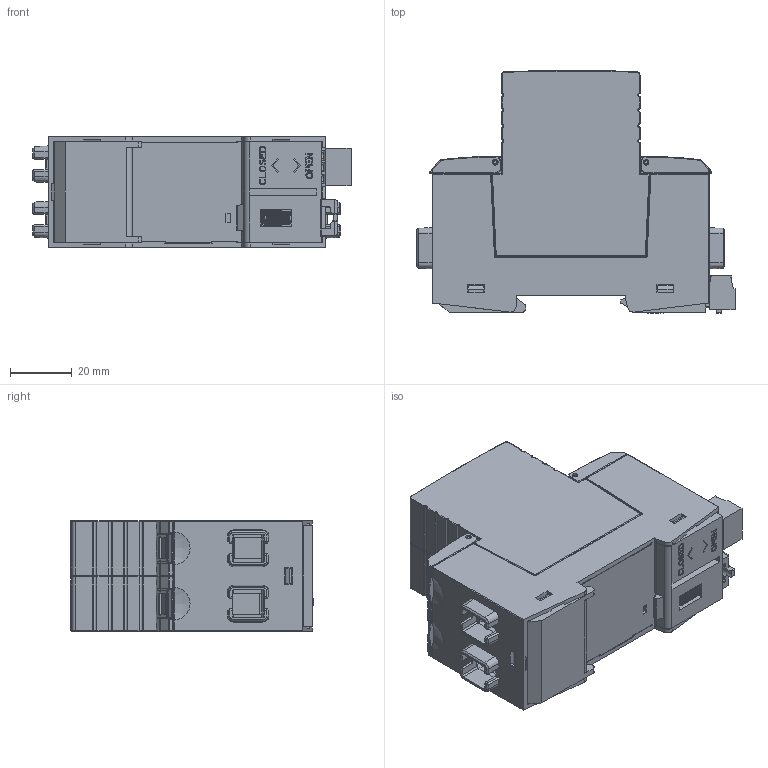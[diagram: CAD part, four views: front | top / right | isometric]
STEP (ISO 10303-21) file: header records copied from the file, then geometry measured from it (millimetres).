
FILE_DESCRIPTION(/* description */ ('Unknown'),/* implementation_level */ '2;1');
FILE_NAME(/* name */ 'SD25TXXXL2',/* time_stamp */ '2023-04-08T17:04:23+08:00',/* author */ ('Unknown'),/* organization */ ('Unknown'),/* preprocessor_version */ 'ST-DEVELOPER v16.7',/* originating_system */ 'Solid Edge',/* authorisation */ 'Unknown');
FILE_SCHEMA (('AUTOMOTIVE_DESIGN {1 0 10303 214 3 1 1}'));
Products named in the file (27): ASM1000000022; ASM1000000021_oa_0; PRT1000000070; PRT1000000089; ASM1000000457_oa_1; PRT1000000127; PRT1000001237; ASM1000000020; PRT1000000088; PRT1000000124; PRT1000000120; PRT1000001242; PRT1000000122; PRT1000000117; ASM1000000110_oa_2; PRT1000000115; PRT1000000114; PRT1000000092; PRT1000000099; PRT1000001015; ASM1000000172_oa_3; PRT1000000097; PRT1000000113; ASM1000000262; PRT1000000100; ASM1000000110_oa_4; ASM1000000172_oa_5
Assembly tree (39 placements, depth 4):
  ASM1000000022
    ASM1000000021_oa_0
      PRT1000000070
      PRT1000000089
      ASM1000000457_oa_1
        PRT1000000127
      PRT1000001237
      ASM1000000020
        PRT1000000088
        PRT1000000124  x2
      PRT1000000120
      PRT1000001242
      PRT1000000122
      PRT1000000117
    ASM1000000110_oa_2
      PRT1000000115
      PRT1000000114
      PRT1000000092  x2
      PRT1000000099
      PRT1000001015
      ASM1000000172_oa_3
        PRT1000000097  x2
        PRT1000000113
      ASM1000000262
        PRT1000000100
    ASM1000000110_oa_4
      PRT1000000115
      PRT1000000114
      PRT1000000092  x2
      PRT1000000099
      PRT1000001015
      ASM1000000172_oa_5
        PRT1000000097  x2
        PRT1000000113
      ASM1000000262
        PRT1000000100
Bounding box: 103.4 x 78.94 x 36 mm (x, y, z)
Volume: 68566.9 mm3; surface area: 119007.9 mm2
Topology: 31 solids, 31 shells, 5834 faces, 15409 edges, 9663 vertices
Faces by surface type: plane 3525, cylinder 1451, torus 388, sphere 230, bspline 199, cone 41
Full cylindrical faces by diameter (mm): 0.3 x8, 1.5 x10, 1.6 x4, 1.8 x12, 2 x6, 2.1 x4, 2.2 x3, 2.3 x2, 2.4 x2, 2.5 x8, 2.8 x3, 2.9 x3, 5 x1, 6.8 x1, 7.5 x4, 9.5 x3
Entity records: 136932 total; most frequent: CARTESIAN_POINT 32626, ORIENTED_EDGE 21744, DIRECTION 20472, EDGE_CURVE 10872, LINE 8352, VECTOR 8352, VERTEX_POINT 6964, AXIS2_PLACEMENT_3D 6060
